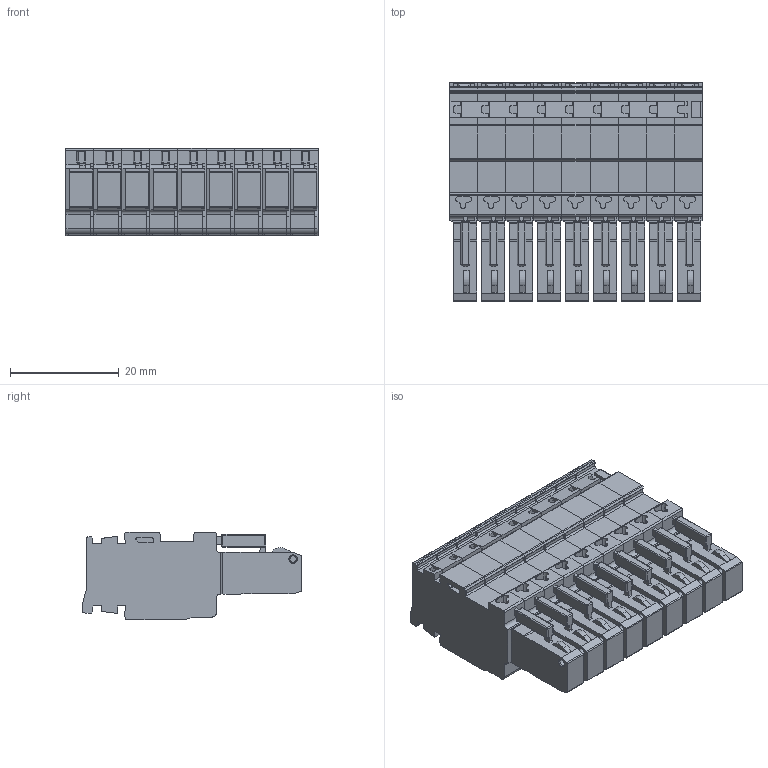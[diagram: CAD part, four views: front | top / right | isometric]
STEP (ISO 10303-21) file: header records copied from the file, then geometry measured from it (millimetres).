
FILE_DESCRIPTION (( 'STEP AP214' ), '1' );
FILE_NAME ('V01.TPA.08.0193.00.00.0.STEP', '2025-09-17T10:04:36', ( '' ), ( '' ), 'SwSTEP 2.0', 'SolidWorks 2022', '' );
FILE_SCHEMA (( 'AUTOMOTIVE_DESIGN' ));
Length unit declared in the file: millimetre
Products named in the file (3): V01.TPA.08.0185.00.00.0_VPR-P-2.5-M-R; V01.TPA.08.0193.00.00.0; V01.TPA.08.0185.00.00.0_VPR-P-2.5-1
Assembly tree (9 placements, depth 2):
  V01.TPA.08.0193.00.00.0
    V01.TPA.08.0185.00.00.0_VPR-P-2.5-1
    V01.TPA.08.0185.00.00.0_VPR-P-2.5-M-R  x8
Bounding box: 46.35 x 40.17 x 16 mm (x, y, z)
Volume: 18111 mm3; surface area: 25478.8 mm2
Topology: 9 solids, 9 shells, 4817 faces, 13386 edges, 8701 vertices
Faces by surface type: plane 3087, cylinder 1481, cone 109, sphere 72, bspline 68
Full cylindrical faces by diameter (mm): 0.6 x32, 1 x9, 1.1 x24, 1.2 x9, 1.3 x8, 1.5 x9, 1.52 x8, 1.532 x18, 1.693 x32, 2 x9
Entity records: 31365 total; most frequent: CARTESIAN_POINT 5823, ORIENTED_EDGE 5240, DIRECTION 5071, EDGE_CURVE 2620, VECTOR 1929, LINE 1929, VERTEX_POINT 1739, AXIS2_PLACEMENT_3D 1571
